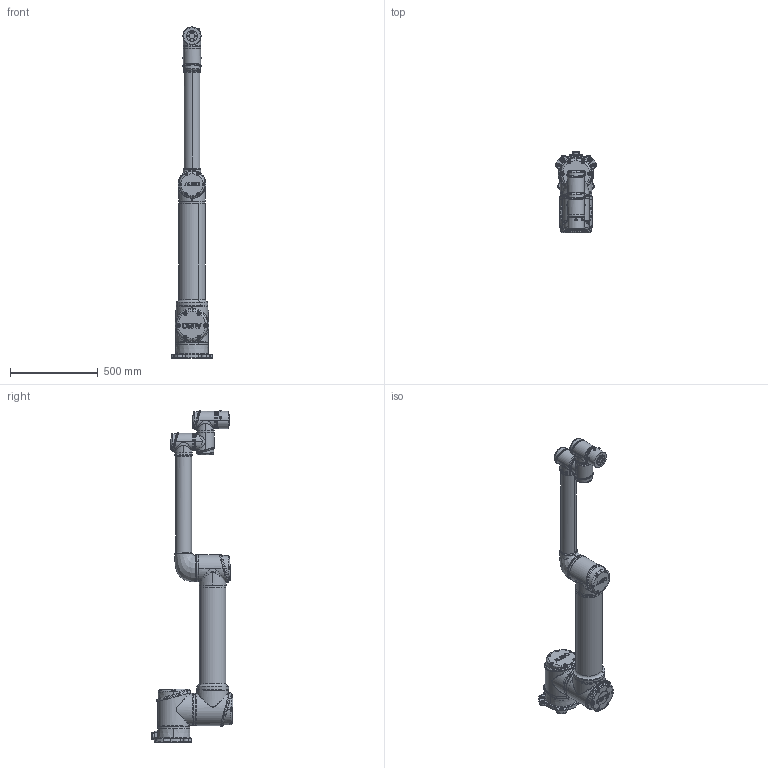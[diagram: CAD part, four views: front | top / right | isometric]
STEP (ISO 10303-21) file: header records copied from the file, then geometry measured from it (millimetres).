
FILE_DESCRIPTION (( 'STEP AP214' ), '1' );
FILE_NAME ('AUBO-iS20(FT)-DRW_Robot_Machine_A0.STEP', '2025-11-04T07:55:59', ( '' ), ( '' ), 'SwSTEP 2.0', 'SolidWorks 2024', '' );
FILE_SCHEMA (( 'AUTOMOTIVE_DESIGN' ));
Length unit declared in the file: millimetre
Products named in the file (7): AUBO-iS20(FT)-DRW_Robot_Machine_A0; iS20-大臂管; iS20-小臂管; iS20-底座简化; M20P-关节简化; C1-B1098D-简化; M40P-关节简化
Assembly tree (7 placements, depth 2):
  AUBO-iS20(FT)-DRW_Robot_Machine_A0
    iS20-底座简化
    M40P-关节简化
    iS20-大臂管
    iS20-小臂管
    M20P-关节简化  x2
    C1-B1098D-简化
Bounding box: 235.36 x 465.5 x 1889.5 mm (x, y, z)
Volume: 38742671.5 mm3; surface area: 1870644.2 mm2
Topology: 19 solids, 36 shells, 3606 faces, 8989 edges, 5660 vertices
Faces by surface type: plane 1072, bspline 884, cylinder 800, torus 394, cone 320, sphere 136
Entity records: 221838 total; most frequent: CARTESIAN_POINT 115050, ORIENTED_EDGE 16440, DIRECTION 12755, EDGE_CURVE 8220, AXIS2_PLACEMENT_3D 5307, VERTEX_POINT 5171, EDGE_LOOP 3591, ADVANCED_FACE 3335
